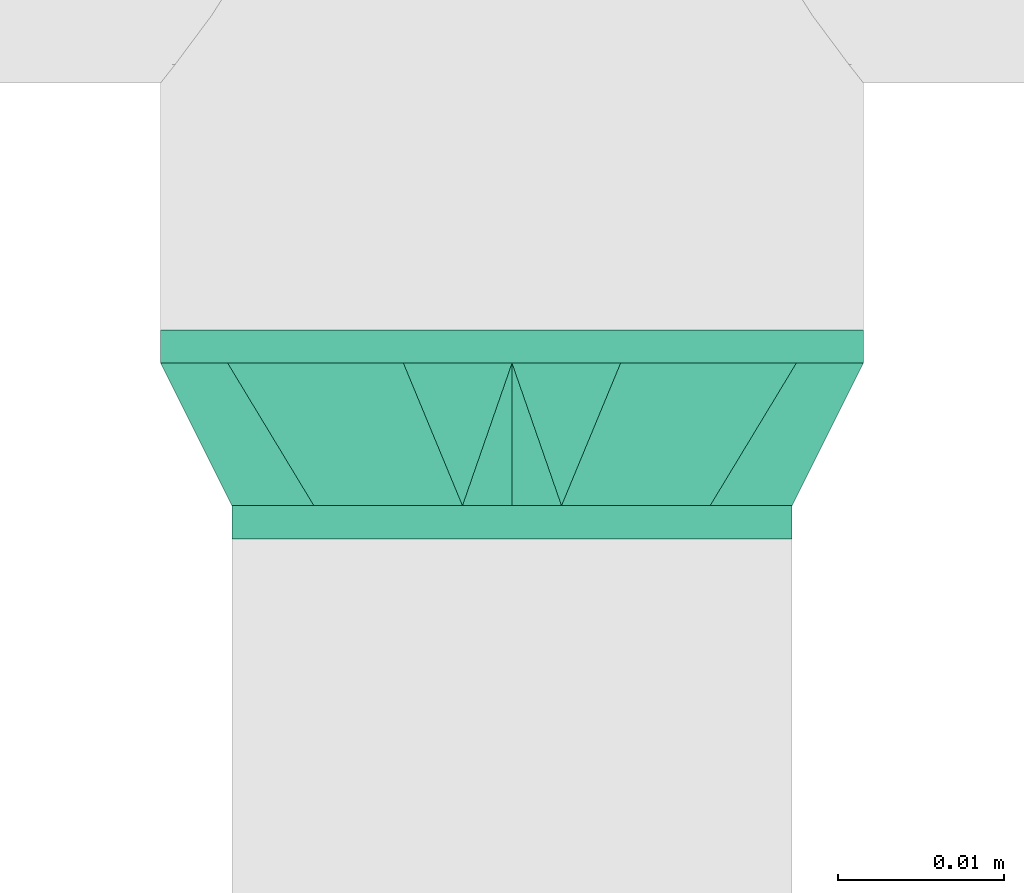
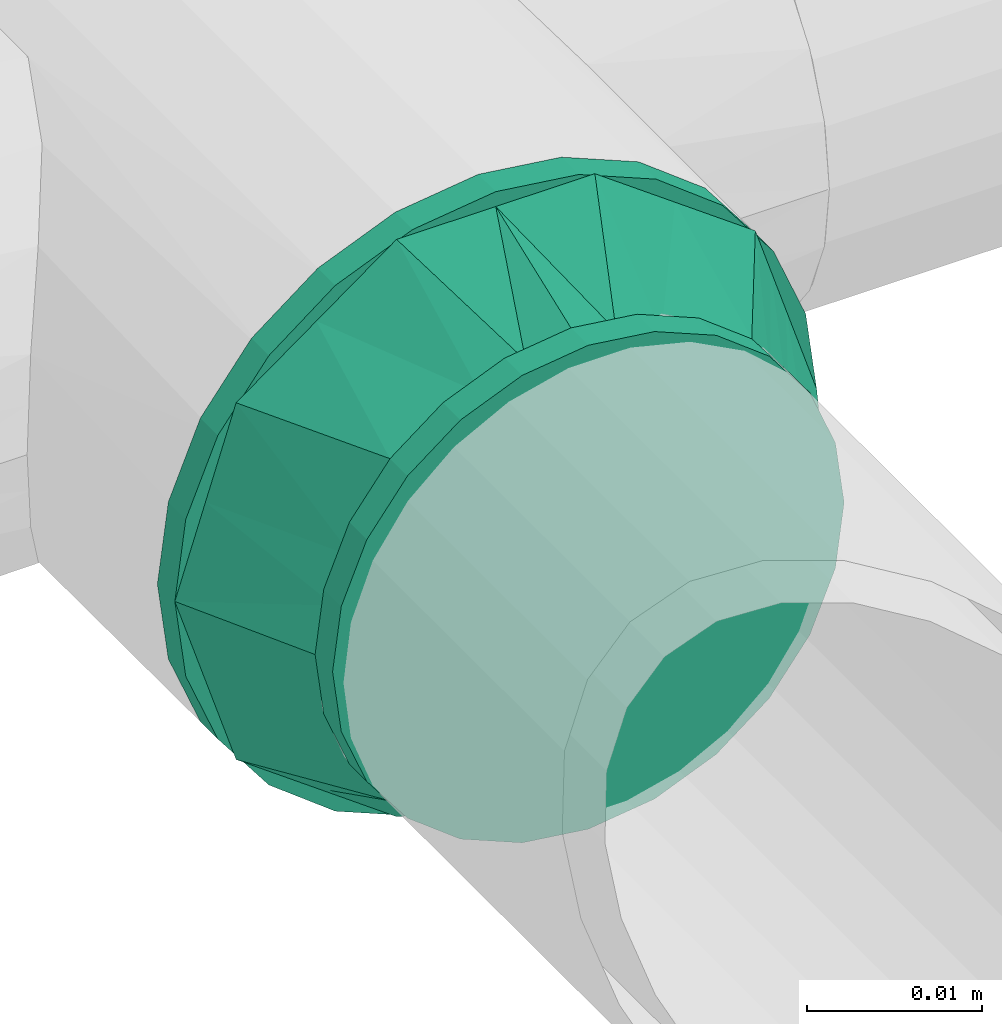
# One storey, part 60 of 157: 1 flow fitting.
"""IFC2X3 building model written with IfcOpenShell, lengths in millimetres."""

from ifc_helpers import new_model, entity, si_unit, converted_unit, derived_unit, direction, frame, origin_with_axes, place, context, subcontext, project, spatial, open_shell, surface_model, source, transform, mapped, type_object, element, save


model = new_model("IFC2X3")

# Units and contexts
model_context = context("Model", 3, precision=0.01, world=frame((0.0, 4.29681676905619e-09, 0.0)), true_north=direction((4.01073788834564e-13, 1.0)))
plan_context = context("Plan", 3, precision=0.01, world=frame((0.0, 4.29681676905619e-09, 0.0)), true_north=direction((4.01073788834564e-13, 1.0)))
body_context = subcontext(model_context, "Body", "Model", "MODEL_VIEW")
ifc_project = project(units=[converted_unit("PLANEANGLEUNIT", "DEGREE", entity("IfcPositiveLengthMeasure", 0.0174532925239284), si_unit("PLANEANGLEUNIT", "RADIAN"), dimensions=[0, 0, 0, 0, 0, 0, 0]), si_unit("AREAUNIT", "SQUARE_METRE"), si_unit("LENGTHUNIT", "METRE", prefix="MILLI"), si_unit("MASSUNIT", "GRAM", prefix="KILO"), si_unit("POWERUNIT", "WATT"), si_unit("PRESSUREUNIT", "PASCAL"), si_unit("FORCEUNIT", "NEWTON", prefix="KILO"), si_unit("ELECTRICCURRENTUNIT", "AMPERE"), si_unit("THERMODYNAMICTEMPERATUREUNIT", "DEGREE_CELSIUS"), si_unit("TIMEUNIT", "SECOND"), si_unit("VOLUMEUNIT", "CUBIC_METRE"), derived_unit("LINEARVELOCITYUNIT", [(si_unit("LENGTHUNIT", "METRE"), 1), (si_unit("TIMEUNIT", "SECOND"), -1)]), derived_unit("VOLUMETRICFLOWRATEUNIT", [(si_unit("VOLUMEUNIT", "CUBIC_METRE"), 1), (si_unit("TIMEUNIT", "SECOND"), -1)]), derived_unit("THERMALTRANSMITTANCEUNIT", [(si_unit("POWERUNIT", "WATT"), 1), (si_unit("THERMODYNAMICTEMPERATUREUNIT", "KELVIN"), -1), (si_unit("AREAUNIT", "SQUARE_METRE"), -1)])], contexts=[model_context, plan_context])

# Site, building, storey
site_placement = place(None, frame((0.0, -4.29681676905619e-09, 0.0), z_axis=(0.0, 0.0, 1.0), x_axis=(1.0, 0.0, 0.0)))
site = spatial("IfcSite", under=ifc_project, at=site_placement, CompositionType="ELEMENT")
building_placement = place(site_placement, frame((0.0, 4.29681676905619e-09, 0.0), z_axis=(0.0, 0.0, 1.0), x_axis=(1.0, 0.0, 0.0)))
building = spatial("IfcBuilding", under=site, at=building_placement, Name="mc-building", CompositionType="ELEMENT")
storey_placement = place(building_placement, frame((0.0, 0.0, 204000.0), z_axis=(0.0, 0.0, 1.0), x_axis=(1.0, 0.0, 0.0)))
storey = spatial("IfcBuildingStorey", under=building, at=storey_placement, Name="Nivå D", CompositionType="ELEMENT", Elevation=204000.0)

# Flow fitting
pipe_fitting_type = type_object("IfcPipeFittingType", Name="magi_pipe_fe_reducer_centric_short_NOR", PredefinedType="TRANSITION")
shared_shape = source(origin_with_axes(), body_context, "Body", "SurfaceModel", [
    surface_model("IfcShellBasedSurfaceModel", [(-2.0, -10.6, -18.35974), (-2.0, 0.0, -21.2), (-2.0, -5.48696, -20.47763), (-2.0, 5.48696, -20.47763), (-2.0, 10.6, -18.35974), (8.6, -11.9501, -11.9501), (8.6, -11.9501, 11.9501), (8.6, -16.9, 0.0), (8.6, 11.9501, -11.9501), (8.6, 16.9, 0.0), (8.6, 0.0, -16.9), (0.0, 17.15116, 12.46105), (0.0, 6.55116, -20.1624), (0.0, -21.2, 0.0), (0.0, -6.55116, -20.1624), (0.0, -17.15116, -12.46105), (8.6, 2.98753, -15.66253), (0.0, 0.0, -20.1624), (0.0, -11.85116, -16.31172), (8.6, -2.98753, -15.66253), (8.6, 8.96258, -13.18758), (8.6, 5.97505, -14.42505), (0.0, 11.85116, -16.31172), (8.6, -5.97505, -14.42505), (8.6, -13.18758, -8.96258), (8.6, -8.96258, -13.18758), (0.0, -6.55116, 20.1624), (8.6, -2.98753, 15.66253), (0.0, 0.0, 20.1624), (8.6, 11.9501, 11.9501), (0.0, 11.85116, 16.31172), (8.6, 2.98753, 15.66253), (0.0, 6.55116, 20.1624), (8.6, -8.96258, 13.18758), (8.6, -5.97505, 14.42505), (0.0, -11.85116, 16.31172), (8.6, 5.97505, 14.42505), (8.6, 13.18758, 8.96258), (8.6, 8.96258, 13.18758), (10.6, 4.37404, -16.32415), (10.6, 8.45, -14.63583), (10.6, 11.9501, -11.9501), (10.6, -8.45, -14.63583), (10.6, 16.32415, -4.37404), (10.6, 16.32415, 4.37404), (10.6, 14.63583, -8.45), (10.6, 0.0, -16.9), (10.6, -4.37404, -16.32415), (10.6, -11.9501, -11.9501), (10.6, -16.32415, -4.37404), (10.6, -14.63583, -8.45), (10.6, -16.32415, 4.37404), (10.6, 16.9, 0.0), (10.6, 14.63583, 8.45), (10.6, 11.9501, 11.9501), (10.6, 4.37404, 16.32415), (10.6, 8.45, 14.63583), (10.6, 0.0, 16.9), (10.6, -14.63583, 8.45), (10.6, -16.9, 0.0), (10.6, -8.45, 14.63583), (10.6, -11.9501, 11.9501), (10.6, -4.37404, 16.32415), (8.6, 4.37404, 16.32415), (8.6, -14.63583, 8.45), (8.6, 0.0, 16.9), (8.6, 16.32415, 4.37404), (8.6, 8.45, 14.63583), (8.6, 14.63583, 8.45), (8.6, -8.45, 14.63583), (8.6, -4.37404, 16.32415), (8.6, -16.32415, 4.37404), (8.6, -16.32415, -4.37404), (8.6, -8.45, -14.63583), (8.6, 16.32415, -4.37404), (8.6, 14.63583, -8.45), (8.6, 8.45, -14.63583), (8.6, 4.37404, -16.32415), (8.6, -14.63583, -8.45), (8.6, -4.37404, -16.32415), (-2.0, 0.0, 21.2), (-2.0, 5.48696, 20.47763), (-2.0, 10.6, 18.35974), (-2.0, 14.99066, 14.99066), (-2.0, 18.35974, 10.6), (-2.0, 20.47763, 5.48696), (-2.0, -21.2, 0.0), (-2.0, -14.99066, -14.99066), (-2.0, -5.48696, 20.47763), (-2.0, -14.99066, 14.99066), (-2.0, -10.6, 18.35974), (-2.0, -18.35974, 10.6), (-2.0, -20.47763, 5.48696), (-2.0, 20.47763, -5.48696), (-2.0, 14.99066, -14.99066), (-2.0, 18.35974, -10.6), (-2.0, -18.35974, -10.6), (-2.0, -20.47763, -5.48696), (-2.0, 21.2, 0.0), (0.0, 10.6, -18.35974), (0.0, 0.0, -21.2), (0.0, 5.48696, -20.47763), (0.0, 20.47763, -5.48696), (0.0, 14.99066, -14.99066), (0.0, -14.99066, -14.99066), (0.0, 18.35974, -10.6), (0.0, -10.6, -18.35974), (0.0, -5.48696, -20.47763), (0.0, -18.35974, -10.6), (0.0, -20.47763, -5.48696), (0.0, -18.35974, 10.6), (0.0, 21.2, 0.0), (0.0, 20.47763, 5.48696), (0.0, 18.35974, 10.6), (0.0, 14.99066, 14.99066), (0.0, 0.0, 21.2), (0.0, 10.6, 18.35974), (0.0, 5.48696, 20.47763), (0.0, -14.99066, 14.99066), (0.0, -20.47763, 5.48696), (0.0, -5.48696, 20.47763), (0.0, -10.6, 18.35974), (0.0, -17.15116, 12.46105), (0.0, 17.15116, -12.46105), (0.0, 14.50116, -14.38638), (8.6, -14.42505, -5.97505), (0.0, -19.17558, -6.23052), (0.0, -18.16337, -9.34579), (8.6, 14.42505, -5.97505), (0.0, 19.17558, -6.23052), (8.6, 13.18758, -8.96258), (8.6, 15.66253, -2.98753), (8.6, -15.66253, -2.98753), (0.0, -14.50116, 14.38638), (8.6, 14.42505, 5.97505), (0.0, 19.17558, 6.23052), (0.0, 18.16337, 9.34579), (8.6, -14.42505, 5.97505), (0.0, -19.17558, 6.23052), (8.6, -13.18758, 8.96258), (8.6, -15.66253, 2.98753), (8.6, 15.66253, 2.98753)], [open_shell([[[0, 1, 2]], [[3, 1, 4]], [[5, 6, 7]], [[8, 9, 10]], [[11, 12, 13]], [[13, 12, 14]], [[13, 14, 15]], [[12, 16, 17]], [[5, 15, 18]], [[17, 19, 14]], [[20, 21, 22]], [[19, 23, 14]], [[12, 21, 16]], [[15, 5, 24]], [[25, 5, 18]], [[22, 8, 20]], [[26, 27, 28]], [[29, 11, 30]], [[28, 31, 32]], [[33, 34, 35]], [[31, 36, 32]], [[26, 34, 27]], [[11, 29, 37]], [[38, 29, 30]], [[35, 6, 33]], [[39, 40, 41]], [[42, 39, 41]], [[41, 43, 44]], [[43, 41, 45]], [[41, 44, 42]], [[46, 42, 47]], [[46, 39, 42]], [[48, 49, 50]], [[49, 48, 42]], [[42, 51, 49]], [[44, 43, 52]], [[44, 53, 54]], [[44, 54, 55]], [[55, 51, 42]], [[55, 54, 56]], [[51, 55, 57]], [[57, 58, 51]], [[59, 49, 51]], [[58, 60, 61]], [[58, 57, 60]], [[60, 57, 62]], [[42, 44, 55]], [[63, 64, 65]], [[66, 63, 67]], [[29, 68, 66]], [[29, 66, 67]], [[64, 63, 66]], [[69, 64, 6]], [[69, 70, 65]], [[65, 64, 69]], [[71, 64, 66]], [[71, 72, 7]], [[71, 66, 73]], [[66, 74, 8]], [[8, 74, 75]], [[8, 76, 77]], [[73, 66, 8]], [[77, 10, 8]], [[72, 5, 78]], [[5, 72, 73]], [[73, 10, 79]], [[72, 71, 73]], [[8, 10, 73]], [[74, 66, 9]], [[72, 49, 7]], [[78, 50, 72]], [[42, 5, 73]], [[78, 5, 48]], [[47, 73, 79]], [[72, 50, 49]], [[49, 59, 7]], [[47, 42, 73]], [[48, 5, 42]], [[48, 50, 78]], [[46, 47, 79]], [[79, 10, 46]], [[77, 39, 10]], [[76, 40, 77]], [[45, 8, 75]], [[76, 8, 41]], [[43, 75, 74]], [[76, 41, 40]], [[40, 39, 77]], [[52, 43, 74]], [[45, 75, 43]], [[45, 41, 8]], [[9, 52, 74]], [[10, 39, 46]], [[66, 44, 9]], [[68, 53, 66]], [[56, 29, 67]], [[68, 29, 54]], [[55, 67, 63]], [[66, 53, 44]], [[44, 52, 9]], [[55, 56, 67]], [[54, 29, 56]], [[54, 53, 68]], [[57, 55, 63]], [[63, 65, 57]], [[70, 62, 65]], [[69, 60, 70]], [[58, 6, 64]], [[69, 6, 61]], [[51, 64, 71]], [[69, 61, 60]], [[60, 62, 70]], [[59, 51, 71]], [[58, 64, 51]], [[58, 61, 6]], [[7, 59, 71]], [[65, 62, 57]], [[80, 81, 82]], [[80, 82, 83]], [[83, 84, 85]], [[83, 85, 80]], [[86, 80, 87]], [[88, 89, 90]], [[88, 80, 89]], [[91, 86, 92]], [[89, 80, 91]], [[80, 86, 91]], [[80, 85, 87]], [[85, 93, 4]], [[94, 93, 95]], [[87, 85, 4]], [[4, 93, 94]], [[86, 96, 97]], [[87, 96, 86]], [[0, 87, 4]], [[1, 0, 4]], [[93, 85, 98]], [[99, 100, 101]], [[102, 99, 103]], [[13, 104, 99]], [[102, 103, 105]], [[102, 13, 99]], [[100, 106, 107]], [[100, 99, 106]], [[108, 13, 109]], [[106, 99, 104]], [[108, 104, 13]], [[110, 102, 111]], [[112, 113, 114]], [[112, 114, 115]], [[116, 117, 115]], [[116, 115, 114]], [[112, 115, 118]], [[13, 110, 119]], [[102, 110, 13]], [[118, 120, 121]], [[110, 112, 118]], [[115, 120, 118]], [[110, 111, 112]], [[97, 109, 86]], [[96, 108, 97]], [[106, 87, 0]], [[96, 87, 104]], [[107, 0, 2]], [[97, 108, 109]], [[109, 13, 86]], [[107, 106, 0]], [[104, 87, 106]], [[104, 108, 96]], [[100, 107, 2]], [[2, 1, 100]], [[3, 101, 1]], [[4, 99, 3]], [[105, 94, 95]], [[4, 94, 103]], [[102, 95, 93]], [[4, 103, 99]], [[99, 101, 3]], [[111, 102, 93]], [[105, 95, 102]], [[105, 103, 94]], [[98, 111, 93]], [[1, 101, 100]], [[85, 112, 98]], [[84, 113, 85]], [[116, 83, 82]], [[84, 83, 114]], [[117, 82, 81]], [[85, 113, 112]], [[112, 111, 98]], [[117, 116, 82]], [[114, 83, 116]], [[114, 113, 84]], [[115, 117, 81]], [[81, 80, 115]], [[88, 120, 80]], [[90, 121, 88]], [[110, 89, 91]], [[90, 89, 118]], [[119, 91, 92]], [[90, 118, 121]], [[121, 120, 88]], [[13, 119, 92]], [[110, 91, 119]], [[110, 118, 89]], [[86, 13, 92]], [[80, 120, 115]], [[65, 6, 29]], [[9, 29, 6]], [[6, 10, 9]], [[10, 6, 5]], [[32, 11, 122]], [[32, 122, 26]], [[122, 11, 13]], [[12, 11, 123]], [[123, 11, 111]], [[8, 22, 124]], [[125, 126, 127]], [[22, 21, 12]], [[8, 124, 123]], [[128, 123, 129]], [[17, 16, 10]], [[123, 128, 130]], [[111, 131, 129]], [[13, 132, 7]], [[18, 23, 25]], [[13, 126, 132]], [[19, 17, 10]], [[131, 111, 9]], [[125, 132, 126]], [[15, 24, 127]], [[24, 125, 127]], [[8, 123, 130]], [[23, 18, 14]], [[131, 128, 129]], [[6, 35, 133]], [[134, 135, 136]], [[35, 34, 26]], [[6, 133, 122]], [[137, 122, 138]], [[28, 27, 65]], [[122, 137, 139]], [[13, 140, 138]], [[111, 141, 9]], [[30, 36, 38]], [[111, 135, 141]], [[31, 28, 65]], [[140, 13, 7]], [[134, 141, 135]], [[11, 37, 136]], [[37, 134, 136]], [[6, 122, 139]], [[36, 30, 32]], [[140, 137, 138]]])]),
])
flow_fitting_placement = place(storey_placement, frame((521635.35, 410766.20001, 2880.0), z_axis=(0.0, 0.0, 1.0), x_axis=(0.0, -1.0, 0.0)))
element("IfcFlowFitting", 1, at=flow_fitting_placement, inside=storey, type_object=pipe_fitting_type, Name="magi_pipe_fe_reducer_centric_short_NOR", context=body_context, shape_type="MappedRepresentation", body=[
    mapped(shared_shape, transform((0.0, 0.0, 0.0), scale=1.0)),
])

save(model, "model.ifc")
